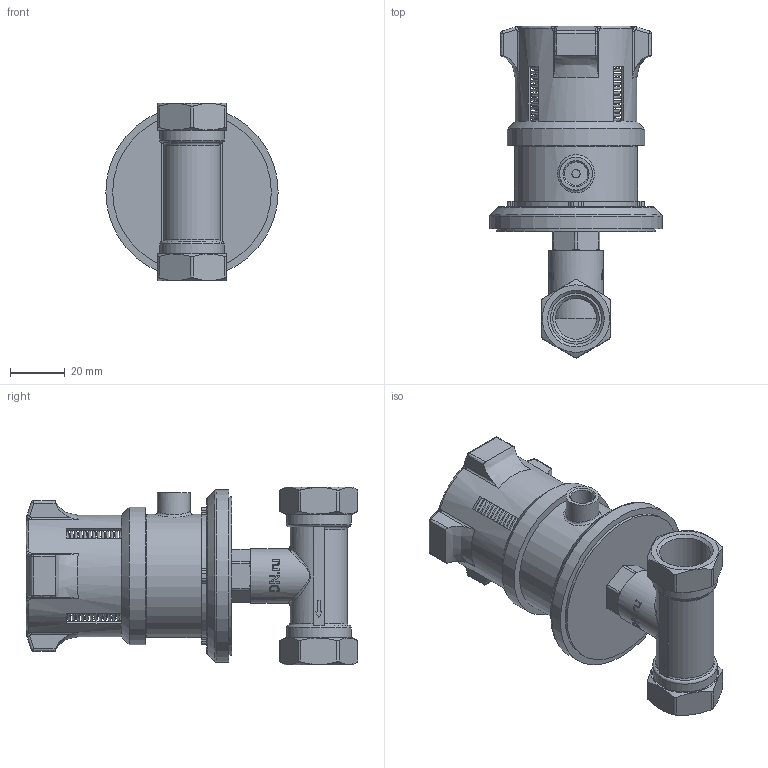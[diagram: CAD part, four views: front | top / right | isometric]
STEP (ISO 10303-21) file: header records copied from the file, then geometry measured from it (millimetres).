
FILE_DESCRIPTION(('STEP AP242'), '1');
FILE_NAME('VBA0000E-T Êëàïàí áàëàíñèðîâî÷íûé àâòîìàòè÷åñêèé DN.ru Äó15 Ðó16', '', ('UNSPECIFIED'), ('UNSPECIFIED'), 'C3D Converter', 'C3D Toolkit', '');
FILE_SCHEMA(('AP242_MANAGED_MODEL_BASED_3D_ENGINEERING_MIM_LF { 1 0 10303 442 1 1 4 }'));
Length unit declared in the file: millimetre
Products named in the file (1): VBA0000E-T
Bounding box: 63 x 121.28 x 65 mm (x, y, z)
Volume: 577.8 mm3; surface area: 47100.8 mm2
Topology: 1 solids, 2 shells, 676 faces, 1814 edges, 1169 vertices
Faces by surface type: plane 240, bspline 175, extrusion 167, cylinder 70, cone 17, torus 7
Full cylindrical faces by diameter (mm): 3 x1, 8.566 x1, 12 x1, 15 x2, 15.381 x2, 18.631 x2, 20 x1, 23.631 x2, 45 x1, 50.18 x1, 58 x1, 63 x1
Entity records: 45480 total; most frequent: CARTESIAN_POINT 25325, ORIENTED_EDGE 3502, DIRECTION 2134, EDGE_CURVE 1751, VERTEX_POINT 1152, VECTOR 914, B_SPLINE_CURVE_WITH_KNOTS 779, EDGE_LOOP 765
